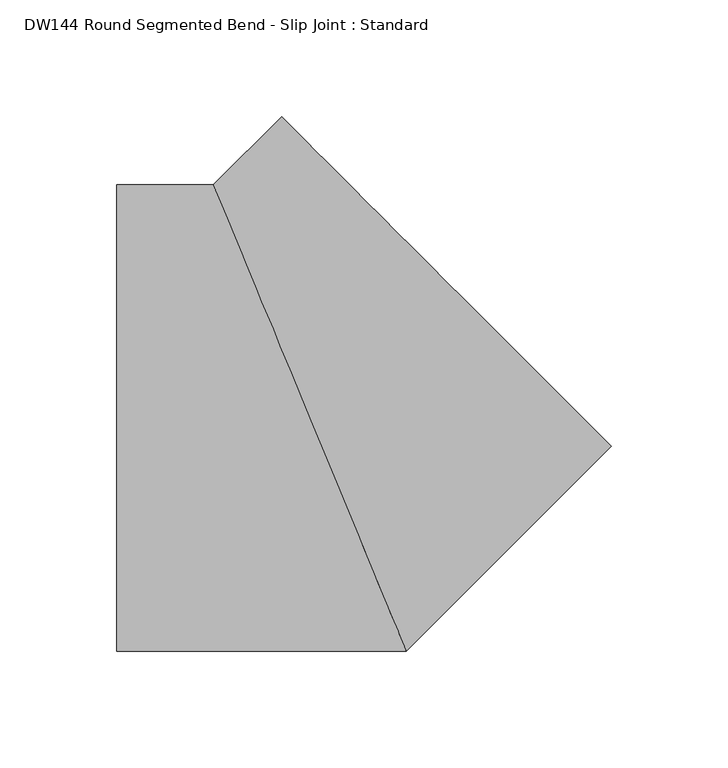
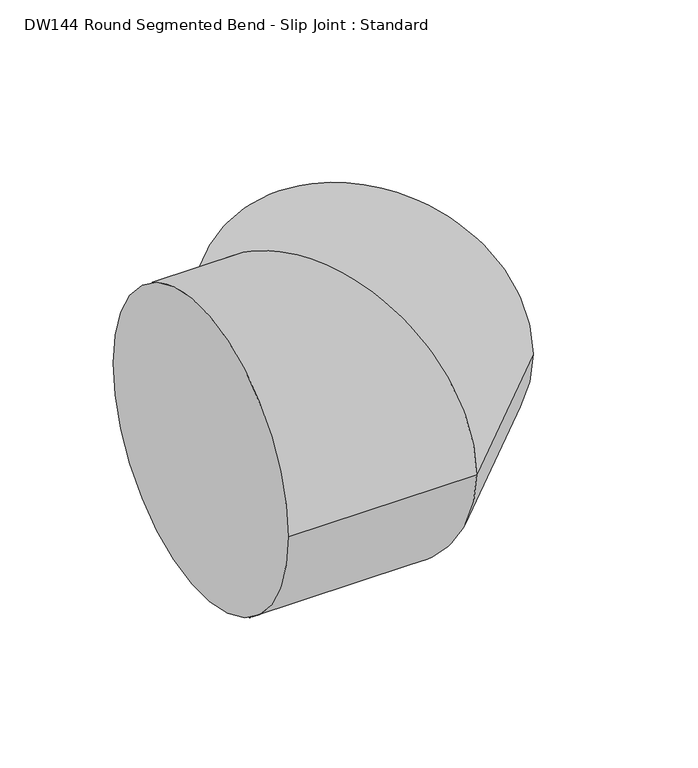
"""IFC4 building model written with IfcOpenShell, lengths in millimetres: duct fitting geometry, DW144 Round Segmented Bend - Slip Joint : Standard."""

from ifc_helpers import new_model, si_unit, frame, origin, place, context, project, spatial, circle_curve, ellipse_curve, source, transform, mapped, element, save
from ifc_brep_helpers import plane_surface, cylinder_surface, advanced_brep


def dw144_round_segmented_bend_slip_joint_standard_e64af1a0(model_context):
    return source(origin(), model_context, "Body", "AdvancedBrep", [
        advanced_brep(
        [(-82.8427125, -100.0, 0.0), (-82.8427125, 100.0, 0.0), (41.4213562, -100.0, 0.0), (-41.4213562, 100.0, 0.0), (129.2893219, -12.1320344, 0.0), (-12.1320344, 129.2893219, 0.0)],
        [
            (0, 1, circle_curve(frame((-82.8427125, 0.0, 0.0), z_axis=(-1.0, 0.0, 0.0), x_axis=(0.0, 1.0, 0.0)), 100.0)),
            (1, 0, circle_curve(frame((-82.8427125, 0.0, 0.0), z_axis=(-1.0, 0.0, 0.0), x_axis=(0.0, 1.0, 0.0)), 100.0)),
            (0, 2),
            (2, 3, ellipse_curve(frame((0.0, 0.0, 0.0), z_axis=(-0.9238795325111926, -0.38268343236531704, 0.0), x_axis=(-0.382683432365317, 0.9238795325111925, 0.0)), 108.23922, 100.0)),
            (3, 1),
            (3, 2, ellipse_curve(frame((0.0, 0.0, 0.0), z_axis=(-0.9238795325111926, -0.38268343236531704, 0.0), x_axis=(-0.382683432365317, 0.9238795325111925, 0.0)), 108.23922, 100.0)),
            (2, 4),
            (4, 5, circle_curve(frame((58.5786438, 58.5786438, 0.0), z_axis=(-0.707106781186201, -0.7071067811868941, 0.0), x_axis=(-0.7071067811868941, 0.707106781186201, 0.0)), 100.0)),
            (5, 3),
            (5, 4, circle_curve(frame((58.5786438, 58.5786438, 0.0), z_axis=(-0.707106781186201, -0.7071067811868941, 0.0), x_axis=(-0.7071067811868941, 0.707106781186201, 0.0)), 100.0)),
        ],
        [
            plane_surface(frame((-82.8427125, 0.0, 0.0), z_axis=(-1.0, 0.0, 0.0), x_axis=(0.0, 0.0, 1.0))),
            cylinder_surface(frame((-82.8427125, 0.0, 0.0), z_axis=(-1.0, 0.0, 0.0), x_axis=(0.0, 1.0, 0.0)), 100.0),
            cylinder_surface(frame((0.0, 0.0, 0.0), z_axis=(-0.707106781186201, -0.7071067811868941, 0.0), x_axis=(-0.7071067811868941, 0.707106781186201, 0.0)), 100.0),
            plane_surface(frame((58.5786438, 58.5786438, 0.0), z_axis=(0.707106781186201, 0.7071067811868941, 0.0), x_axis=(0.0, 0.0, 1.0))),
        ],
        [
            (0, [[1, 2]]),
            (1, [[-1, 3, 4, 5]]),
            (1, [[-2, -5, 6, -3]]),
            (2, [[-4, 7, 8, 9]]),
            (2, [[-6, -9, 10, -7]]),
            (3, [[-10, -8]]),
        ],
    ),
    ])


if __name__ == "__main__":
    model = new_model("IFC4")
    model_context = context("Model", 3, world=origin())
    ifc_project = project(units=[si_unit("LENGTHUNIT", "METRE", prefix="MILLI")], contexts=[model_context])
    site = spatial("IfcSite", under=ifc_project)
    building = spatial("IfcBuilding", under=site)
    placement = place(None, origin())
    dw144_round_segmented_bend_slip_joint_standard_shape = dw144_round_segmented_bend_slip_joint_standard_e64af1a0(model_context)
    element("IfcDuctFitting", 1, ObjectType="DW144 Round Segmented Bend - Slip Joint : Standard", at=placement, inside=building, context=model_context, shape_type="MappedRepresentation", body=[
        mapped(dw144_round_segmented_bend_slip_joint_standard_shape, transform((0.0, 0.0, 0.0), x_axis=(1.0, 0.0, 0.0), y_axis=(0.0, 1.0, 0.0), z_axis=(0.0, 0.0, 1.0))),
    ])
    save(model, "model.ifc")
